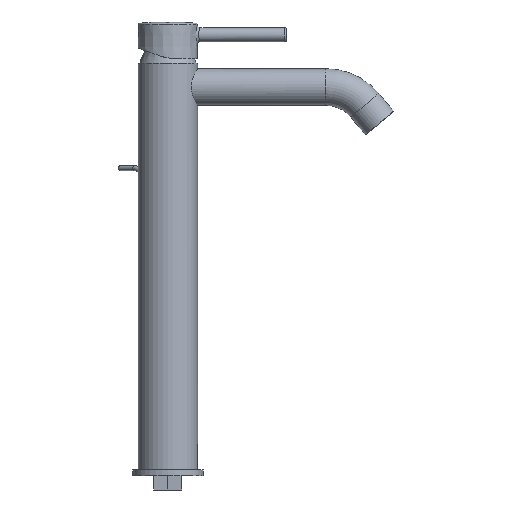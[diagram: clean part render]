
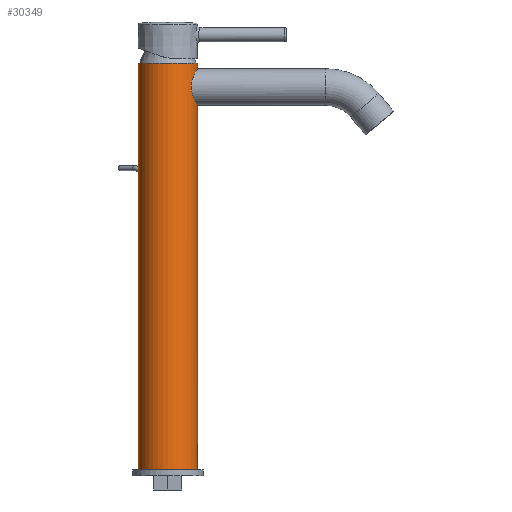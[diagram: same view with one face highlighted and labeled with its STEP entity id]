
A CAD part, left-side view. The second image highlights one B-rep face of the part: STEP entity #30349.
In plain terms, the highlighted cylindrical face has radius 21 mm (diameter 42 mm), a partial arc.
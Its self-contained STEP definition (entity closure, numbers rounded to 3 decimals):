
#10534=CARTESIAN_POINT('',(0.,0.,4.5));
#10535=DIRECTION('',(0.,0.,-1.));
#10536=DIRECTION('',(0.,-1.,0.));
#10537=AXIS2_PLACEMENT_3D('',#10534,#10535,#10536);
#10539=DIRECTION('',(0.,0.,1.));
#10540=VECTOR('',#10539,288.);
#10541=CARTESIAN_POINT('',(0.,21.,4.5));
#10542=LINE('',#10541,#10540);
#10543=CARTESIAN_POINT('',(0.,-21.,288.5));
#10544=CARTESIAN_POINT('',(-0.585,-21.,288.5));
#10545=CARTESIAN_POINT('',(-1.756,-20.951,
288.421));
#10546=CARTESIAN_POINT('',(-3.506,-20.73,
288.062));
#10547=CARTESIAN_POINT('',(-5.238,-20.362,
287.447));
#10548=CARTESIAN_POINT('',(-6.926,-19.851,
286.558));
#10549=CARTESIAN_POINT('',(-8.525,-19.216,
285.383));
#10550=CARTESIAN_POINT('',(-9.96,-18.508,
283.937));
#10551=CARTESIAN_POINT('',(-11.144,-17.813,
282.293));
#10552=CARTESIAN_POINT('',(-12.022,-17.226,
280.565));
#10553=CARTESIAN_POINT('',(-12.604,-16.8,
278.843));
#10554=CARTESIAN_POINT('',(-12.93,-16.548,
277.158));
#10555=CARTESIAN_POINT('',(-13.035,-16.465,
275.5));
#10556=CARTESIAN_POINT('',(-12.93,-16.548,
273.842));
#10557=CARTESIAN_POINT('',(-12.604,-16.8,
272.156));
#10558=CARTESIAN_POINT('',(-12.022,-17.226,
270.435));
#10559=CARTESIAN_POINT('',(-11.144,-17.813,
268.707));
#10560=CARTESIAN_POINT('',(-9.96,-18.508,
267.063));
#10561=CARTESIAN_POINT('',(-8.525,-19.216,
265.617));
#10562=CARTESIAN_POINT('',(-6.926,-19.851,
264.442));
#10563=CARTESIAN_POINT('',(-5.238,-20.362,
263.553));
#10564=CARTESIAN_POINT('',(-3.506,-20.73,
262.938));
#10565=CARTESIAN_POINT('',(-1.757,-20.951,
262.579));
#10566=CARTESIAN_POINT('',(-0.585,-21.,262.5));
#10567=CARTESIAN_POINT('',(0.,-21.,262.5));
#10569=DIRECTION('',(0.,0.,-1.));
#10570=VECTOR('',#10569,258.);
#10571=CARTESIAN_POINT('',(0.,-21.,262.5));
#10572=LINE('',#10571,#10570);
#10647=DIRECTION('',(0.,0.,1.));
#10648=VECTOR('',#10647,4.);
#10649=CARTESIAN_POINT('',(0.,-21.,288.5));
#10650=LINE('',#10649,#10648);
#10963=CARTESIAN_POINT('',(0.,0.,292.5));
#10964=DIRECTION('',(0.,0.,-1.));
#10965=DIRECTION('',(0.,-1.,0.));
#10966=AXIS2_PLACEMENT_3D('',#10963,#10964,#10965);
#14309=CARTESIAN_POINT('',(0.,21.,292.5));
#14310=CARTESIAN_POINT('',(0.,-21.,292.5));
#14311=VERTEX_POINT('',#14309);
#14312=VERTEX_POINT('',#14310);
#16546=VERTEX_POINT('',#10543);
#16547=VERTEX_POINT('',#10567);
#16556=CARTESIAN_POINT('',(0.,-21.,4.5));
#16557=CARTESIAN_POINT('',(0.,21.,4.5));
#16558=VERTEX_POINT('',#16556);
#16559=VERTEX_POINT('',#16557);
#30331=CARTESIAN_POINT('',(0.,0.,300.4));
#30332=DIRECTION('',(0.,0.,-1.));
#30333=DIRECTION('',(0.,1.,0.));
#30334=AXIS2_PLACEMENT_3D('',#30331,#30332,#30333);
#30335=CYLINDRICAL_SURFACE('',#30334,21.);
#30337=ORIENTED_EDGE('',*,*,#30336,.T.);
#30339=ORIENTED_EDGE('',*,*,#30338,.T.);
#30341=ORIENTED_EDGE('',*,*,#30340,.F.);
#30343=ORIENTED_EDGE('',*,*,#30342,.F.);
#30344=ORIENTED_EDGE('',*,*,#30321,.T.);
#30346=ORIENTED_EDGE('',*,*,#30345,.T.);
#30347=EDGE_LOOP('',(#30337,#30339,#30341,#30343,#30344,#30346));
#30348=FACE_OUTER_BOUND('',#30347,.F.);
#10538=CIRCLE('',#10537,21.);
#10568=B_SPLINE_CURVE_WITH_KNOTS('',3,(#10543,#10544,#10545,#10546,#10547,
#10548,#10549,#10550,#10551,#10552,#10553,#10554,#10555,#10556,#10557,#10558,
#10559,#10560,#10561,#10562,#10563,#10564,#10565,#10566,#10567),.UNSPECIFIED.,
.F.,.F.,(4,1,1,1,1,1,1,1,1,1,1,1,1,1,1,1,1,1,1,1,1,1,4),(0.,0.045,
0.091,0.136,0.182,0.227,
0.273,0.318,0.364,0.409,
0.455,0.5,0.545,0.591,0.636,
0.682,0.727,0.773,0.818,
0.864,0.909,0.955,1.),.UNSPECIFIED.);
#10967=CIRCLE('',#10966,21.);
#30321=EDGE_CURVE('',#16546,#16547,#10568,.T.);
#30336=EDGE_CURVE('',#16558,#16559,#10538,.T.);
#30338=EDGE_CURVE('',#16559,#14311,#10542,.T.);
#30340=EDGE_CURVE('',#14312,#14311,#10967,.T.);
#30342=EDGE_CURVE('',#16546,#14312,#10650,.T.);
#30345=EDGE_CURVE('',#16547,#16558,#10572,.T.);
#30349=ADVANCED_FACE('',(#30348),#30335,.T.);
